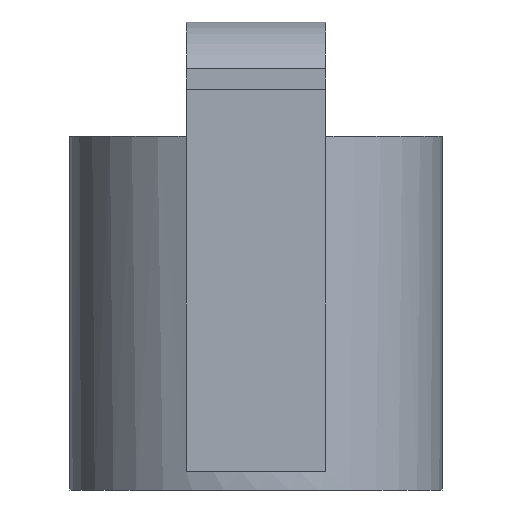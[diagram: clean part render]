
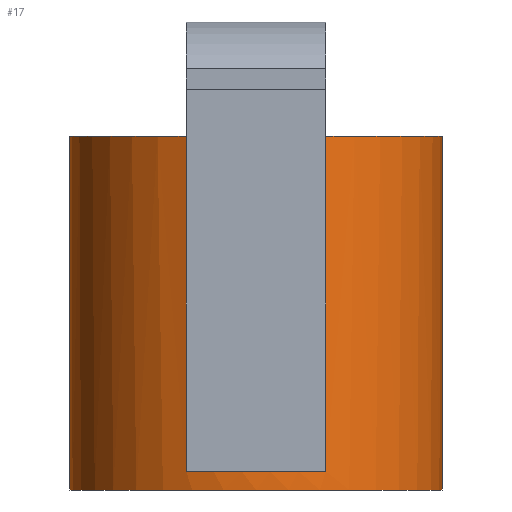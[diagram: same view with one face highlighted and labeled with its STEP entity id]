
A CAD part, left-side view. The second image highlights one B-rep face of the part: STEP entity #17.
In plain terms, the highlighted cylindrical face has radius 4 mm (diameter 8 mm), a full revolution.
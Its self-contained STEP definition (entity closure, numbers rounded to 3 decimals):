
#17 = ADVANCED_FACE('',(#18),#31,.T.);
#18 = FACE_BOUND('',#19,.T.);
#19 = EDGE_LOOP('',(#20,#54,#77,#106,#134,#167,#195,#217));
#20 = ORIENTED_EDGE('',*,*,#21,.T.);
#21 = EDGE_CURVE('',#22,#22,#24,.T.);
#22 = VERTEX_POINT('',#23);
#23 = CARTESIAN_POINT('',(-22.,15.,-0.7));
#24 = SURFACE_CURVE('',#25,(#30,#42),.PCURVE_S1.);
#25 = CIRCLE('',#26,4.);
#26 = AXIS2_PLACEMENT_3D('',#27,#28,#29);
#27 = CARTESIAN_POINT('',(-26.,15.,-0.7));
#28 = DIRECTION('',(0.,0.,1.));
#29 = DIRECTION('',(1.,0.,-0.));
#30 = PCURVE('',#31,#36);
#31 = CYLINDRICAL_SURFACE('',#32,4.);
#32 = AXIS2_PLACEMENT_3D('',#33,#34,#35);
#33 = CARTESIAN_POINT('',(-26.,15.,0.1));
#34 = DIRECTION('',(-0.,-0.,-1.));
#35 = DIRECTION('',(1.,0.,0.));
#36 = DEFINITIONAL_REPRESENTATION('',(#37),#41);
#37 = LINE('',#38,#39);
#38 = CARTESIAN_POINT('',(6.283,0.8));
#39 = VECTOR('',#40,1.);
#40 = DIRECTION('',(-1.,0.));
#41 = ( GEOMETRIC_REPRESENTATION_CONTEXT(2) 
PARAMETRIC_REPRESENTATION_CONTEXT() REPRESENTATION_CONTEXT('2D SPACE',''
  ) );
#42 = PCURVE('',#43,#48);
#43 = PLANE('',#44);
#44 = AXIS2_PLACEMENT_3D('',#45,#46,#47);
#45 = CARTESIAN_POINT('',(-26.,15.,-0.7));
#46 = DIRECTION('',(0.,0.,1.));
#47 = DIRECTION('',(1.,0.,-0.));
#48 = DEFINITIONAL_REPRESENTATION('',(#49),#53);
#49 = CIRCLE('',#50,4.);
#50 = AXIS2_PLACEMENT_2D('',#51,#52);
#51 = CARTESIAN_POINT('',(0.,0.));
#52 = DIRECTION('',(1.,0.));
#53 = ( GEOMETRIC_REPRESENTATION_CONTEXT(2) 
PARAMETRIC_REPRESENTATION_CONTEXT() REPRESENTATION_CONTEXT('2D SPACE',''
  ) );
#54 = ORIENTED_EDGE('',*,*,#55,.T.);
#55 = EDGE_CURVE('',#22,#56,#58,.T.);
#56 = VERTEX_POINT('',#57);
#57 = CARTESIAN_POINT('',(-22.,15.,6.9));
#58 = SEAM_CURVE('',#59,(#63,#70),.PCURVE_S1.);
#59 = LINE('',#60,#61);
#60 = CARTESIAN_POINT('',(-22.,15.,-0.7));
#61 = VECTOR('',#62,1.);
#62 = DIRECTION('',(0.,0.,1.));
#63 = PCURVE('',#31,#64);
#64 = DEFINITIONAL_REPRESENTATION('',(#65),#69);
#65 = LINE('',#66,#67);
#66 = CARTESIAN_POINT('',(0.,0.8));
#67 = VECTOR('',#68,1.);
#68 = DIRECTION('',(-0.,-1.));
#69 = ( GEOMETRIC_REPRESENTATION_CONTEXT(2) 
PARAMETRIC_REPRESENTATION_CONTEXT() REPRESENTATION_CONTEXT('2D SPACE',''
  ) );
#70 = PCURVE('',#31,#71);
#71 = DEFINITIONAL_REPRESENTATION('',(#72),#76);
#72 = LINE('',#73,#74);
#73 = CARTESIAN_POINT('',(6.283,0.8));
#74 = VECTOR('',#75,1.);
#75 = DIRECTION('',(-0.,-1.));
#76 = ( GEOMETRIC_REPRESENTATION_CONTEXT(2) 
PARAMETRIC_REPRESENTATION_CONTEXT() REPRESENTATION_CONTEXT('2D SPACE',''
  ) );
#77 = ORIENTED_EDGE('',*,*,#78,.F.);
#78 = EDGE_CURVE('',#79,#56,#81,.T.);
#79 = VERTEX_POINT('',#80);
#80 = CARTESIAN_POINT('',(-29.708,13.5,6.9));
#81 = SURFACE_CURVE('',#82,(#87,#94),.PCURVE_S1.);
#82 = CIRCLE('',#83,4.);
#83 = AXIS2_PLACEMENT_3D('',#84,#85,#86);
#84 = CARTESIAN_POINT('',(-26.,15.,6.9));
#85 = DIRECTION('',(0.,0.,1.));
#86 = DIRECTION('',(1.,0.,-0.));
#87 = PCURVE('',#31,#88);
#88 = DEFINITIONAL_REPRESENTATION('',(#89),#93);
#89 = LINE('',#90,#91);
#90 = CARTESIAN_POINT('',(6.283,-6.8));
#91 = VECTOR('',#92,1.);
#92 = DIRECTION('',(-1.,0.));
#93 = ( GEOMETRIC_REPRESENTATION_CONTEXT(2) 
PARAMETRIC_REPRESENTATION_CONTEXT() REPRESENTATION_CONTEXT('2D SPACE',''
  ) );
#94 = PCURVE('',#95,#100);
#95 = PLANE('',#96);
#96 = AXIS2_PLACEMENT_3D('',#97,#98,#99);
#97 = CARTESIAN_POINT('',(-26.,15.,6.9));
#98 = DIRECTION('',(0.,0.,1.));
#99 = DIRECTION('',(1.,0.,-0.));
#100 = DEFINITIONAL_REPRESENTATION('',(#101),#105);
#101 = CIRCLE('',#102,4.);
#102 = AXIS2_PLACEMENT_2D('',#103,#104);
#103 = CARTESIAN_POINT('',(0.,0.));
#104 = DIRECTION('',(1.,0.));
#105 = ( GEOMETRIC_REPRESENTATION_CONTEXT(2) 
PARAMETRIC_REPRESENTATION_CONTEXT() REPRESENTATION_CONTEXT('2D SPACE',''
  ) );
#106 = ORIENTED_EDGE('',*,*,#107,.T.);
#107 = EDGE_CURVE('',#79,#108,#110,.T.);
#108 = VERTEX_POINT('',#109);
#109 = CARTESIAN_POINT('',(-29.708,13.5,-0.3));
#110 = SURFACE_CURVE('',#111,(#115,#122),.PCURVE_S1.);
#111 = LINE('',#112,#113);
#112 = CARTESIAN_POINT('',(-29.708,13.5,0.1));
#113 = VECTOR('',#114,1.);
#114 = DIRECTION('',(-0.,-0.,-1.));
#115 = PCURVE('',#31,#116);
#116 = DEFINITIONAL_REPRESENTATION('',(#117),#121);
#117 = LINE('',#118,#119);
#118 = CARTESIAN_POINT('',(2.757,0.));
#119 = VECTOR('',#120,1.);
#120 = DIRECTION('',(-0.,1.));
#121 = ( GEOMETRIC_REPRESENTATION_CONTEXT(2) 
PARAMETRIC_REPRESENTATION_CONTEXT() REPRESENTATION_CONTEXT('2D SPACE',''
  ) );
#122 = PCURVE('',#123,#128);
#123 = PLANE('',#124);
#124 = AXIS2_PLACEMENT_3D('',#125,#126,#127);
#125 = CARTESIAN_POINT('',(-30.5,13.5,-0.3));
#126 = DIRECTION('',(0.,1.,0.));
#127 = DIRECTION('',(0.,-0.,1.));
#128 = DEFINITIONAL_REPRESENTATION('',(#129),#133);
#129 = LINE('',#130,#131);
#130 = CARTESIAN_POINT('',(0.4,0.792));
#131 = VECTOR('',#132,1.);
#132 = DIRECTION('',(-1.,0.));
#133 = ( GEOMETRIC_REPRESENTATION_CONTEXT(2) 
PARAMETRIC_REPRESENTATION_CONTEXT() REPRESENTATION_CONTEXT('2D SPACE',''
  ) );
#134 = ORIENTED_EDGE('',*,*,#135,.T.);
#135 = EDGE_CURVE('',#108,#136,#138,.T.);
#136 = VERTEX_POINT('',#137);
#137 = CARTESIAN_POINT('',(-29.708,16.5,-0.3));
#138 = SURFACE_CURVE('',#139,(#144,#151),.PCURVE_S1.);
#139 = CIRCLE('',#140,4.);
#140 = AXIS2_PLACEMENT_3D('',#141,#142,#143);
#141 = CARTESIAN_POINT('',(-26.,15.,-0.3));
#142 = DIRECTION('',(0.,0.,-1.));
#143 = DIRECTION('',(1.,0.,0.));
#144 = PCURVE('',#31,#145);
#145 = DEFINITIONAL_REPRESENTATION('',(#146),#150);
#146 = LINE('',#147,#148);
#147 = CARTESIAN_POINT('',(0.,0.4));
#148 = VECTOR('',#149,1.);
#149 = DIRECTION('',(1.,-0.));
#150 = ( GEOMETRIC_REPRESENTATION_CONTEXT(2) 
PARAMETRIC_REPRESENTATION_CONTEXT() REPRESENTATION_CONTEXT('2D SPACE',''
  ) );
#151 = PCURVE('',#152,#157);
#152 = PLANE('',#153);
#153 = AXIS2_PLACEMENT_3D('',#154,#155,#156);
#154 = CARTESIAN_POINT('',(-30.5,13.5,-0.3));
#155 = DIRECTION('',(0.,0.,1.));
#156 = DIRECTION('',(1.,0.,-0.));
#157 = DEFINITIONAL_REPRESENTATION('',(#158),#166);
#158 = ( BOUNDED_CURVE() B_SPLINE_CURVE(2,(#159,#160,#161,#162,#163,#164
,#165),.UNSPECIFIED.,.T.,.F.) B_SPLINE_CURVE_WITH_KNOTS((1,2,2,2,2,1),(
    -2.094,0.,2.094,4.189,6.283,
8.378),.UNSPECIFIED.) CURVE() GEOMETRIC_REPRESENTATION_ITEM() 
RATIONAL_B_SPLINE_CURVE((1.,0.5,1.,0.5,1.,0.5,1.)) REPRESENTATION_ITEM(
  '') );
#159 = CARTESIAN_POINT('',(8.5,1.5));
#160 = CARTESIAN_POINT('',(8.5,-5.428));
#161 = CARTESIAN_POINT('',(2.5,-1.964));
#162 = CARTESIAN_POINT('',(-3.5,1.5));
#163 = CARTESIAN_POINT('',(2.5,4.964));
#164 = CARTESIAN_POINT('',(8.5,8.428));
#165 = CARTESIAN_POINT('',(8.5,1.5));
#166 = ( GEOMETRIC_REPRESENTATION_CONTEXT(2) 
PARAMETRIC_REPRESENTATION_CONTEXT() REPRESENTATION_CONTEXT('2D SPACE',''
  ) );
#167 = ORIENTED_EDGE('',*,*,#168,.F.);
#168 = EDGE_CURVE('',#169,#136,#171,.T.);
#169 = VERTEX_POINT('',#170);
#170 = CARTESIAN_POINT('',(-29.708,16.5,6.9));
#171 = SURFACE_CURVE('',#172,(#176,#183),.PCURVE_S1.);
#172 = LINE('',#173,#174);
#173 = CARTESIAN_POINT('',(-29.708,16.5,0.1));
#174 = VECTOR('',#175,1.);
#175 = DIRECTION('',(-0.,-0.,-1.));
#176 = PCURVE('',#31,#177);
#177 = DEFINITIONAL_REPRESENTATION('',(#178),#182);
#178 = LINE('',#179,#180);
#179 = CARTESIAN_POINT('',(3.526,0.));
#180 = VECTOR('',#181,1.);
#181 = DIRECTION('',(-0.,1.));
#182 = ( GEOMETRIC_REPRESENTATION_CONTEXT(2) 
PARAMETRIC_REPRESENTATION_CONTEXT() REPRESENTATION_CONTEXT('2D SPACE',''
  ) );
#183 = PCURVE('',#184,#189);
#184 = PLANE('',#185);
#185 = AXIS2_PLACEMENT_3D('',#186,#187,#188);
#186 = CARTESIAN_POINT('',(-30.5,16.5,-0.3));
#187 = DIRECTION('',(0.,1.,0.));
#188 = DIRECTION('',(0.,-0.,1.));
#189 = DEFINITIONAL_REPRESENTATION('',(#190),#194);
#190 = LINE('',#191,#192);
#191 = CARTESIAN_POINT('',(0.4,0.792));
#192 = VECTOR('',#193,1.);
#193 = DIRECTION('',(-1.,0.));
#194 = ( GEOMETRIC_REPRESENTATION_CONTEXT(2) 
PARAMETRIC_REPRESENTATION_CONTEXT() REPRESENTATION_CONTEXT('2D SPACE',''
  ) );
#195 = ORIENTED_EDGE('',*,*,#196,.F.);
#196 = EDGE_CURVE('',#56,#169,#197,.T.);
#197 = SURFACE_CURVE('',#198,(#203,#210),.PCURVE_S1.);
#198 = CIRCLE('',#199,4.);
#199 = AXIS2_PLACEMENT_3D('',#200,#201,#202);
#200 = CARTESIAN_POINT('',(-26.,15.,6.9));
#201 = DIRECTION('',(0.,0.,1.));
#202 = DIRECTION('',(1.,0.,-0.));
#203 = PCURVE('',#31,#204);
#204 = DEFINITIONAL_REPRESENTATION('',(#205),#209);
#205 = LINE('',#206,#207);
#206 = CARTESIAN_POINT('',(6.283,-6.8));
#207 = VECTOR('',#208,1.);
#208 = DIRECTION('',(-1.,0.));
#209 = ( GEOMETRIC_REPRESENTATION_CONTEXT(2) 
PARAMETRIC_REPRESENTATION_CONTEXT() REPRESENTATION_CONTEXT('2D SPACE',''
  ) );
#210 = PCURVE('',#95,#211);
#211 = DEFINITIONAL_REPRESENTATION('',(#212),#216);
#212 = CIRCLE('',#213,4.);
#213 = AXIS2_PLACEMENT_2D('',#214,#215);
#214 = CARTESIAN_POINT('',(0.,0.));
#215 = DIRECTION('',(1.,0.));
#216 = ( GEOMETRIC_REPRESENTATION_CONTEXT(2) 
PARAMETRIC_REPRESENTATION_CONTEXT() REPRESENTATION_CONTEXT('2D SPACE',''
  ) );
#217 = ORIENTED_EDGE('',*,*,#55,.F.);
